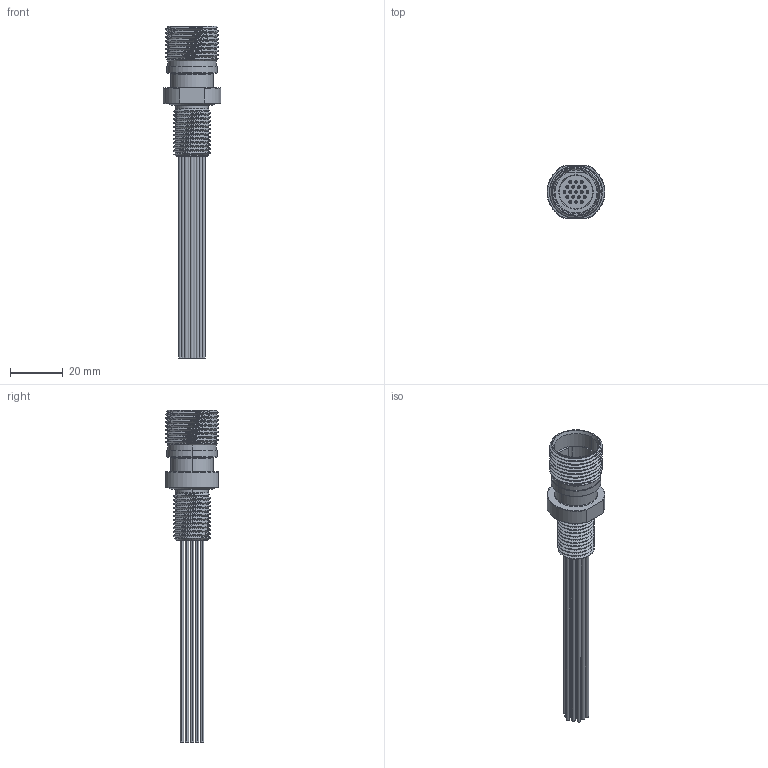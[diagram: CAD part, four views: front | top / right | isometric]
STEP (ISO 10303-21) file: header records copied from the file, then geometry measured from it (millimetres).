
FILE_DESCRIPTION (( 'STEP AP203' ), '1' );
FILE_NAME ('C14-11190 Cobalt 14 Bulkhead 19 Pin.STEP', '2025-09-17T20:42:07', ( '' ), ( '' ), 'SwSTEP 2.0', 'SolidWorks 2024', '' );
FILE_SCHEMA (( 'CONFIG_CONTROL_DESIGN' ));
Length unit declared in the file: millimetre
Products named in the file (1): C14-11190 Cobalt 14 Bulkhead 19 Pin
Bounding box: 22 x 20 x 126 mm (x, y, z)
Volume: 9628.8 mm3; surface area: 11754.8 mm2
Topology: 2 solids, 2 shells, 305 faces, 750 edges, 457 vertices
Faces by surface type: cylinder 143, torus 52, sphere 38, plane 34, cone 32, bspline 6
Entity records: 14743 total; most frequent: CARTESIAN_POINT 7596, DIRECTION 1617, ORIENTED_EDGE 1424, AXIS2_PLACEMENT_3D 720, EDGE_CURVE 712, VERTEX_POINT 457, CIRCLE 420, EDGE_LOOP 353
